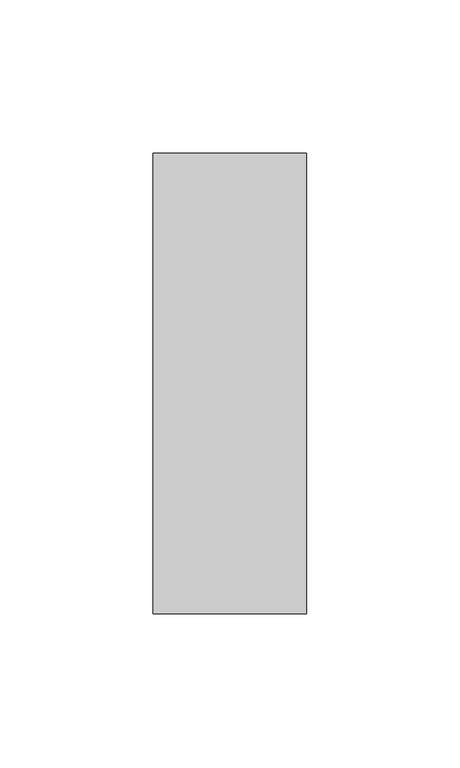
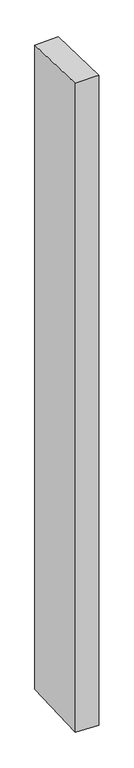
"""IFC4 building model written with IfcOpenShell, lengths in millimetres: member geometry, Прямоугольный импост : 50 x 150 мм."""

from ifc_helpers import new_model, si_unit, origin, place, context, project, spatial, faceted_brep, source, transform, mapped, element, save


def member_6034e067(model_context):
    return source(origin(), model_context, "Body", "Brep", [
        faceted_brep([(-25.0, 75.0, -2.758889), (25.0, 75.0, -1.2606786), (25.0, 75.0, -1462.2042481), (-25.0, 75.0, -1460.8182581), (-25.0, -75.0, 1.2606786), (-25.0, -75.0, -1467.6444743), (25.0, -75.0, 2.758889), (25.0, -75.0, -1469.0304642)], [[[0, 1, 2, 3]], [[4, 0, 3, 5]], [[6, 4, 5, 7]], [[1, 6, 7, 2]], [[1, 0, 4, 6]], [[2, 7, 5, 3]]]),
    ])


if __name__ == "__main__":
    model = new_model("IFC4")
    model_context = context("Model", 3, world=origin())
    ifc_project = project(units=[si_unit("LENGTHUNIT", "METRE", prefix="MILLI")], contexts=[model_context])
    site = spatial("IfcSite", under=ifc_project)
    building = spatial("IfcBuilding", under=site)
    placement = place(None, origin())
    member_shape = member_6034e067(model_context)
    element("IfcMember", 1, ObjectType="Прямоугольный импост : 50 x 150 мм", at=placement, inside=building, context=model_context, shape_type="MappedRepresentation", body=[
        mapped(member_shape, transform((0.0, 0.0, 0.0), x_axis=(1.0, 0.0, 0.0), y_axis=(0.0, 1.0, 0.0), z_axis=(0.0, 0.0, 1.0))),
    ])
    save(model, "model.ifc")
